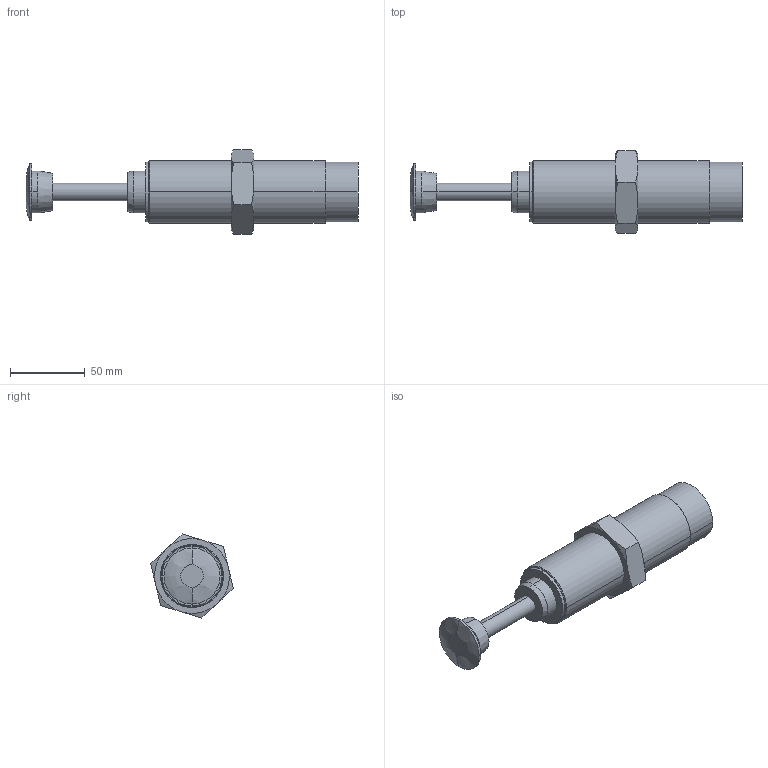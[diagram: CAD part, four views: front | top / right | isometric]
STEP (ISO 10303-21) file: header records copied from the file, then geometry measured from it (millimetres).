
FILE_DESCRIPTION (( 'STEP AP203' ), '1' );
FILE_NAME ('FSA-4250CD.STEP', '2016-03-17T07:51:45', ( 'Sam Lin' ), ( '' ), 'SwSTEP 2.0', 'SolidWorks 2013', '' );
FILE_SCHEMA (( 'CONFIG_CONTROL_DESIGN' ));
Length unit declared in the file: metre
Products named in the file (3): FSA-4250CD; FSA-4250CD_1; M42x1.5-15mm_1
Assembly tree (2 placements, depth 2):
  FSA-4250CD
    FSA-4250CD_1
    M42x1.5-15mm_1
Bounding box: 221.5 x 55.15 x 56.11 mm (x, y, z)
Volume: 228861.2 mm3; surface area: 33339.8 mm2
Topology: 2 solids, 2 shells, 54 faces, 118 edges, 74 vertices
Faces by surface type: cylinder 16, plane 16, bspline 16, cone 6
Entity records: 2157 total; most frequent: CARTESIAN_POINT 795, ORIENTED_EDGE 236, DIRECTION 206, EDGE_CURVE 118, AXIS2_PLACEMENT_3D 89, VERTEX_POINT 74, EDGE_LOOP 62, FACE_OUTER_BOUND 54
